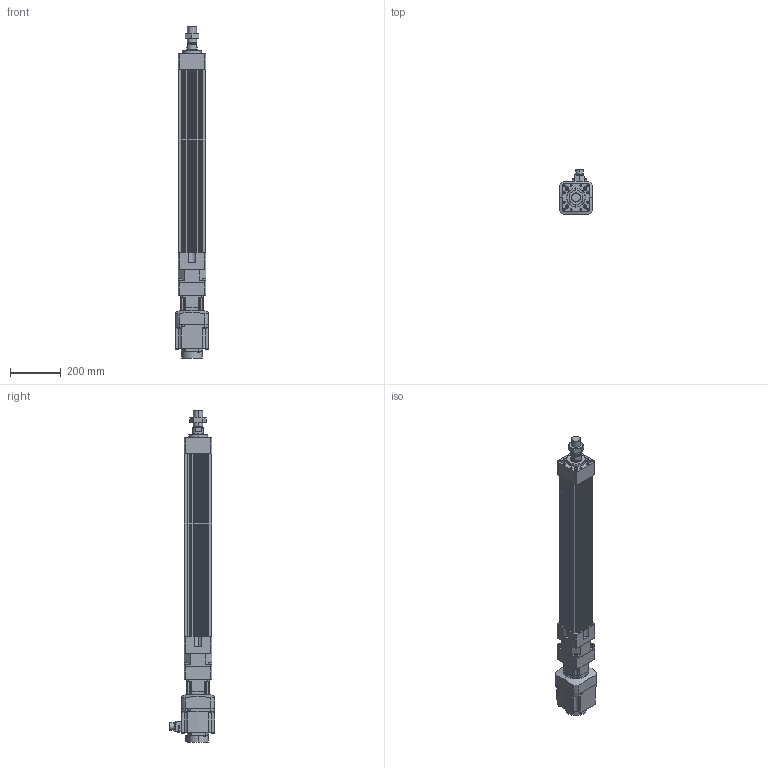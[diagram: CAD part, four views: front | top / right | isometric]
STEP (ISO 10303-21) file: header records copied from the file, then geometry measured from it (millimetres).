
FILE_DESCRIPTION (( 'STEP AP203' ), '1' );
FILE_NAME ('HES110NS(HS)-S550-W010G00-M.STEP', '2023-01-27T04:40:59', ( 'tms' ), ( '' ), 'SwSTEP 2.0', 'SolidWorks 2013', '' );
FILE_SCHEMA (( 'CONFIG_CONTROL_DESIGN' ));
Length unit declared in the file: millimetre
Products named in the file (8): HES110NS(HS)-S550-W010G00-M; AB0901; HG-SR102; M36X1.5P; AB090-003[HG-SR102B]; P0401301004; HES110 ROD M ST550; HES110-S550-G090
Assembly tree (7 placements, depth 3):
  HES110NS(HS)-S550-W010G00-M
    HES110-S550-G090
    HES110 ROD M ST550
    M36X1.5P
    AB090-003[HG-SR102B]
      AB0901
      P0401301004
    HG-SR102
Bounding box: 130 x 177.49 x 1308.5 mm (x, y, z)
Volume: 8341812.2 mm3; surface area: 1156198.2 mm2
Topology: 4 solids, 15 shells, 1197 faces, 3018 edges, 1947 vertices
Faces by surface type: plane 550, cylinder 535, cone 100, bspline 8, torus 4
Entity records: 37761 total; most frequent: CARTESIAN_POINT 7330, DIRECTION 6511, ORIENTED_EDGE 5944, EDGE_CURVE 2982, AXIS2_PLACEMENT_3D 2399, VERTEX_POINT 1947, VECTOR 1713, LINE 1713
